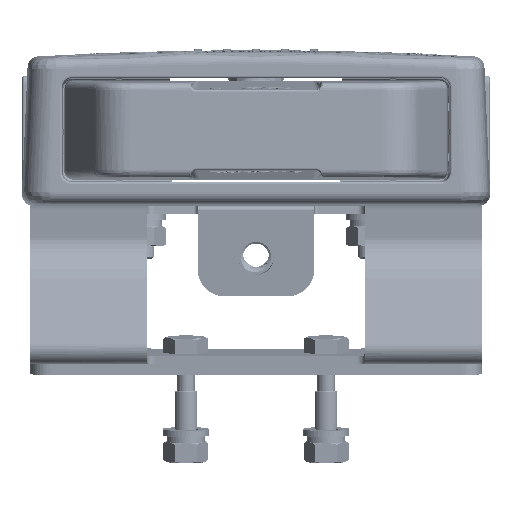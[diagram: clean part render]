
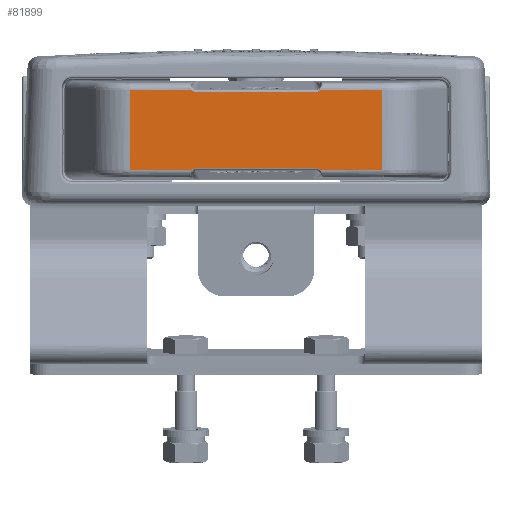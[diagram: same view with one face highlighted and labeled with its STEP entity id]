
A CAD part, front view. The second image highlights one B-rep face of the part: STEP entity #81899.
In plain terms, the highlighted planar face has unit normal (0, -1, 0) as drawn and (0, 0, 1) by its records, which use the part's own axes.
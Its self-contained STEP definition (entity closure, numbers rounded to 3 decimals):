
#73101=CARTESIAN_POINT('',(-16.45,-10.176,
-9.326));
#73142=CARTESIAN_POINT('',(15.956,-9.917,
-9.326));
#73143=CARTESIAN_POINT('',(15.885,-9.892,
-9.326));
#73144=CARTESIAN_POINT('',(15.74,-9.849,
-9.326));
#73145=CARTESIAN_POINT('',(15.515,-9.81,
-9.326));
#73146=CARTESIAN_POINT('',(15.364,-9.802,
-9.326));
#73147=CARTESIAN_POINT('',(15.288,-9.802,
-9.326));
#73152=CARTESIAN_POINT('',(-15.288,-9.802,
-9.326));
#73153=CARTESIAN_POINT('',(-15.364,-9.802,
-9.326));
#73154=CARTESIAN_POINT('',(-15.515,-9.81,
-9.326));
#73155=CARTESIAN_POINT('',(-15.74,-9.849,
-9.326));
#73156=CARTESIAN_POINT('',(-15.885,-9.892,
-9.326));
#73157=CARTESIAN_POINT('',(-15.956,-9.917,
-9.326));
#73162=CARTESIAN_POINT('',(-15.956,-9.917,
-9.326));
#73163=CARTESIAN_POINT('',(-16.015,-9.938,
-9.326));
#73164=CARTESIAN_POINT('',(-16.13,-9.985,
-9.326));
#73165=CARTESIAN_POINT('',(-16.295,-10.072,
-9.326));
#73166=CARTESIAN_POINT('',(-16.4,-10.14,
-9.326));
#73167=CARTESIAN_POINT('',(-16.45,-10.176,
-9.326));
#73172=DIRECTION('',(-1.,0.,0.));
#73173=VECTOR('',#73172,15.892);
#73174=CARTESIAN_POINT('',(-16.45,-10.176,
-9.326));
#73175=LINE('',#73174,#73173);
#73179=DIRECTION('',(1.,0.,0.));
#73180=VECTOR('',#73179,15.892);
#73181=CARTESIAN_POINT('',(-32.342,10.176,
-9.326));
#73182=LINE('',#73181,#73180);
#73186=CARTESIAN_POINT('',(-16.45,10.176,
-9.326));
#73187=CARTESIAN_POINT('',(-16.4,10.14,
-9.326));
#73188=CARTESIAN_POINT('',(-16.295,10.072,
-9.326));
#73189=CARTESIAN_POINT('',(-16.13,9.985,
-9.326));
#73190=CARTESIAN_POINT('',(-16.015,9.938,
-9.326));
#73191=CARTESIAN_POINT('',(-15.956,9.917,
-9.326));
#73196=CARTESIAN_POINT('',(-15.956,9.917,
-9.326));
#73197=CARTESIAN_POINT('',(-15.885,9.892,
-9.326));
#73198=CARTESIAN_POINT('',(-15.74,9.849,
-9.326));
#73199=CARTESIAN_POINT('',(-15.515,9.81,
-9.326));
#73200=CARTESIAN_POINT('',(-15.364,9.802,
-9.326));
#73201=CARTESIAN_POINT('',(-15.288,9.802,
-9.326));
#73206=CARTESIAN_POINT('',(15.288,9.802,
-9.326));
#73207=CARTESIAN_POINT('',(15.364,9.802,
-9.326));
#73208=CARTESIAN_POINT('',(15.515,9.81,-9.326));
#73209=CARTESIAN_POINT('',(15.74,9.849,
-9.326));
#73210=CARTESIAN_POINT('',(15.885,9.892,
-9.326));
#73211=CARTESIAN_POINT('',(15.956,9.917,
-9.326));
#73216=CARTESIAN_POINT('',(15.956,9.917,
-9.326));
#73217=CARTESIAN_POINT('',(16.015,9.938,
-9.326));
#73218=CARTESIAN_POINT('',(16.13,9.985,
-9.326));
#73219=CARTESIAN_POINT('',(16.295,10.072,
-9.326));
#73220=CARTESIAN_POINT('',(16.4,10.14,
-9.326));
#73221=CARTESIAN_POINT('',(16.45,10.176,
-9.326));
#73226=DIRECTION('',(1.,0.,0.));
#73227=VECTOR('',#73226,15.892);
#73228=CARTESIAN_POINT('',(16.45,10.176,
-9.326));
#73229=LINE('',#73228,#73227);
#73233=DIRECTION('',(-1.,0.,0.));
#73234=VECTOR('',#73233,15.892);
#73235=CARTESIAN_POINT('',(32.342,-10.176,
-9.326));
#73236=LINE('',#73235,#73234);
#73240=CARTESIAN_POINT('',(16.45,-10.176,
-9.326));
#73241=CARTESIAN_POINT('',(16.4,-10.14,
-9.326));
#73242=CARTESIAN_POINT('',(16.295,-10.072,
-9.326));
#73243=CARTESIAN_POINT('',(16.13,-9.985,
-9.326));
#73244=CARTESIAN_POINT('',(16.015,-9.938,
-9.326));
#73245=CARTESIAN_POINT('',(15.956,-9.917,
-9.326));
#73389=DIRECTION('',(0.,1.,0.));
#73390=VECTOR('',#73389,20.352);
#73391=CARTESIAN_POINT('',(32.342,-10.176,
-9.326));
#73392=LINE('',#73391,#73390);
#74330=DIRECTION('',(-1.,0.,0.));
#74331=VECTOR('',#74330,30.577);
#74332=CARTESIAN_POINT('',(15.288,9.802,
-9.326));
#74333=LINE('',#74332,#74331);
#74408=DIRECTION('',(0.,-1.,0.));
#74409=VECTOR('',#74408,20.352);
#74410=CARTESIAN_POINT('',(-32.342,10.176,
-9.326));
#74411=LINE('',#74410,#74409);
#76403=DIRECTION('',(1.,0.,0.));
#76404=VECTOR('',#76403,30.577);
#76405=CARTESIAN_POINT('',(-15.288,-9.802,
-9.326));
#76406=LINE('',#76405,#76404);
#80141=VERTEX_POINT('',#73101);
#80142=CARTESIAN_POINT('',(-32.342,-10.176,
-9.326));
#80143=VERTEX_POINT('',#80142);
#80144=VERTEX_POINT('',#73162);
#80145=VERTEX_POINT('',#73152);
#80146=VERTEX_POINT('',#73142);
#80147=VERTEX_POINT('',#73147);
#80148=CARTESIAN_POINT('',(-32.342,10.176,
-9.326));
#80149=VERTEX_POINT('',#80148);
#80150=CARTESIAN_POINT('',(-16.45,10.176,
-9.326));
#80151=VERTEX_POINT('',#80150);
#80152=VERTEX_POINT('',#73191);
#80153=VERTEX_POINT('',#73201);
#80154=CARTESIAN_POINT('',(15.288,9.802,
-9.326));
#80155=VERTEX_POINT('',#80154);
#80156=VERTEX_POINT('',#73211);
#80157=VERTEX_POINT('',#73221);
#80158=CARTESIAN_POINT('',(32.342,10.176,
-9.326));
#80159=VERTEX_POINT('',#80158);
#80160=CARTESIAN_POINT('',(32.342,-10.176,
-9.326));
#80161=VERTEX_POINT('',#80160);
#80162=CARTESIAN_POINT('',(16.45,-10.176,
-9.326));
#80163=VERTEX_POINT('',#80162);
#81863=CARTESIAN_POINT('',(50.,12.5,-9.326));
#81864=DIRECTION('',(0.,0.,1.));
#81865=DIRECTION('',(1.,0.,0.));
#81866=AXIS2_PLACEMENT_3D('',#81863,#81864,#81865);
#81867=PLANE('',#81866);
#81869=ORIENTED_EDGE('',*,*,#81868,.T.);
#81871=ORIENTED_EDGE('',*,*,#81870,.F.);
#81872=ORIENTED_EDGE('',*,*,#81856,.T.);
#81873=ORIENTED_EDGE('',*,*,#81854,.T.);
#81874=ORIENTED_EDGE('',*,*,#81772,.T.);
#81876=ORIENTED_EDGE('',*,*,#81875,.F.);
#81878=ORIENTED_EDGE('',*,*,#81877,.T.);
#81880=ORIENTED_EDGE('',*,*,#81879,.T.);
#81882=ORIENTED_EDGE('',*,*,#81881,.T.);
#81884=ORIENTED_EDGE('',*,*,#81883,.F.);
#81886=ORIENTED_EDGE('',*,*,#81885,.T.);
#81888=ORIENTED_EDGE('',*,*,#81887,.T.);
#81890=ORIENTED_EDGE('',*,*,#81889,.T.);
#81892=ORIENTED_EDGE('',*,*,#81891,.F.);
#81894=ORIENTED_EDGE('',*,*,#81893,.T.);
#81896=ORIENTED_EDGE('',*,*,#81895,.T.);
#81897=EDGE_LOOP('',(#81869,#81871,#81872,#81873,#81874,#81876,#81878,#81880,
#81882,#81884,#81886,#81888,#81890,#81892,#81894,#81896));
#81898=FACE_OUTER_BOUND('',#81897,.F.);
#81899=ADVANCED_FACE('',(#81898),#81867,.T.);
#73148=B_SPLINE_CURVE_WITH_KNOTS('',3,(#73142,#73143,#73144,#73145,#73146,
#73147),.UNSPECIFIED.,.F.,.F.,(4,1,1,4),(0.,0.333,
0.667,1.),.UNSPECIFIED.);
#73158=B_SPLINE_CURVE_WITH_KNOTS('',3,(#73152,#73153,#73154,#73155,#73156,
#73157),.UNSPECIFIED.,.F.,.F.,(4,1,1,4),(0.,0.333,
0.667,1.),.UNSPECIFIED.);
#73168=B_SPLINE_CURVE_WITH_KNOTS('',3,(#73162,#73163,#73164,#73165,#73166,
#73167),.UNSPECIFIED.,.F.,.F.,(4,1,1,4),(0.,0.333,
0.667,1.),.UNSPECIFIED.);
#73192=B_SPLINE_CURVE_WITH_KNOTS('',3,(#73186,#73187,#73188,#73189,#73190,
#73191),.UNSPECIFIED.,.F.,.F.,(4,1,1,4),(0.,0.333,
0.667,1.),.UNSPECIFIED.);
#73202=B_SPLINE_CURVE_WITH_KNOTS('',3,(#73196,#73197,#73198,#73199,#73200,
#73201),.UNSPECIFIED.,.F.,.F.,(4,1,1,4),(0.,0.333,
0.667,1.),.UNSPECIFIED.);
#73212=B_SPLINE_CURVE_WITH_KNOTS('',3,(#73206,#73207,#73208,#73209,#73210,
#73211),.UNSPECIFIED.,.F.,.F.,(4,1,1,4),(0.,0.333,
0.667,1.),.UNSPECIFIED.);
#73222=B_SPLINE_CURVE_WITH_KNOTS('',3,(#73216,#73217,#73218,#73219,#73220,
#73221),.UNSPECIFIED.,.F.,.F.,(4,1,1,4),(0.,0.333,
0.667,1.),.UNSPECIFIED.);
#73246=B_SPLINE_CURVE_WITH_KNOTS('',3,(#73240,#73241,#73242,#73243,#73244,
#73245),.UNSPECIFIED.,.F.,.F.,(4,1,1,4),(0.,0.333,
0.667,1.),.UNSPECIFIED.);
#81772=EDGE_CURVE('',#80141,#80143,#73175,.T.);
#81854=EDGE_CURVE('',#80144,#80141,#73168,.T.);
#81856=EDGE_CURVE('',#80145,#80144,#73158,.T.);
#81868=EDGE_CURVE('',#80146,#80147,#73148,.T.);
#81870=EDGE_CURVE('',#80145,#80147,#76406,.T.);
#81875=EDGE_CURVE('',#80149,#80143,#74411,.T.);
#81877=EDGE_CURVE('',#80149,#80151,#73182,.T.);
#81879=EDGE_CURVE('',#80151,#80152,#73192,.T.);
#81881=EDGE_CURVE('',#80152,#80153,#73202,.T.);
#81883=EDGE_CURVE('',#80155,#80153,#74333,.T.);
#81885=EDGE_CURVE('',#80155,#80156,#73212,.T.);
#81887=EDGE_CURVE('',#80156,#80157,#73222,.T.);
#81889=EDGE_CURVE('',#80157,#80159,#73229,.T.);
#81891=EDGE_CURVE('',#80161,#80159,#73392,.T.);
#81893=EDGE_CURVE('',#80161,#80163,#73236,.T.);
#81895=EDGE_CURVE('',#80163,#80146,#73246,.T.);
